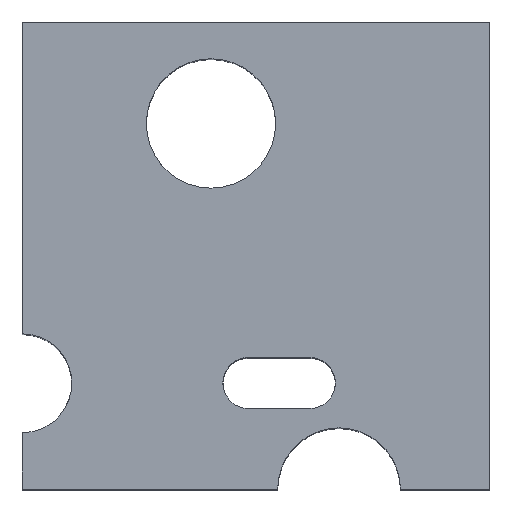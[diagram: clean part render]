
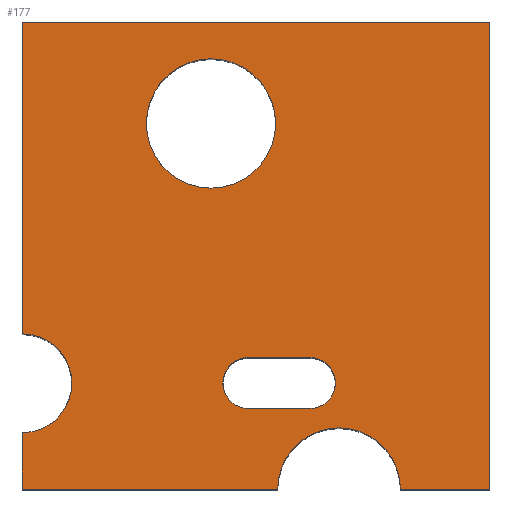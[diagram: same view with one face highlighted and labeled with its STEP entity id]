
A CAD part, top view. The second image highlights one B-rep face of the part: STEP entity #177.
In plain terms, the highlighted planar face has unit normal (0, 0, 1).
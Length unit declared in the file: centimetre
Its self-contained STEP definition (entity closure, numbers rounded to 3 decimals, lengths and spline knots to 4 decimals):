
#3 = VERTEX_POINT ( 'NONE', #1051 ) ;
#4 = CARTESIAN_POINT ( 'NONE',  ( 677.7718, 0., 1000. ) ) ;
#6 = VECTOR ( 'NONE', #338, 100. ) ;
#8 = VECTOR ( 'NONE', #213, 100. ) ;
#32 = CARTESIAN_POINT ( 'NONE',  ( 1000., 1000., 1000. ) ) ;
#36 = VERTEX_POINT ( 'NONE', #175 ) ;
#56 = AXIS2_PLACEMENT_3D ( 'NONE', #1141, #905, #346 ) ;
#63 = ORIENTED_EDGE ( 'NONE', *, *, #738, .T. ) ;
#74 = EDGE_CURVE ( 'NONE', #1196, #167, #997, .T. ) ;
#92 = CARTESIAN_POINT ( 'NONE',  ( 615.32, 227.261, 1000. ) ) ;
#131 = EDGE_CURVE ( 'NONE', #395, #36, #531, .T. ) ;
#135 = DIRECTION ( 'NONE',  ( 0., 0., -1. ) ) ;
#146 = VERTEX_POINT ( 'NONE', #546 ) ;
#154 = ORIENTED_EDGE ( 'NONE', *, *, #1376, .T. ) ;
#155 = VERTEX_POINT ( 'NONE', #860 ) ;
#162 = ORIENTED_EDGE ( 'NONE', *, *, #1199, .T. ) ;
#167 = VERTEX_POINT ( 'NONE', #959 ) ;
#175 = CARTESIAN_POINT ( 'NONE',  ( 0., 332.3804, 1000. ) ) ;
#177 = ADVANCED_FACE ( 'NONE', ( #412, #972, #734 ), #1397, .T. ) ;
#181 = EDGE_LOOP ( 'NONE', ( #1410, #63, #1274, #154, #371, #835, #530, #1321 ) ) ;
#190 = DIRECTION ( 'NONE',  ( 0., -1., 0. ) ) ;
#200 = CARTESIAN_POINT ( 'NONE',  ( 0., 1000., 1000. ) ) ;
#213 = DIRECTION ( 'NONE',  ( 0., -1., 0. ) ) ;
#235 = LINE ( 'NONE', #1251, #785 ) ;
#244 = DIRECTION ( 'NONE',  ( -1., 0., 0. ) ) ;
#247 = VERTEX_POINT ( 'NONE', #667 ) ;
#250 = CARTESIAN_POINT ( 'NONE',  ( 483.5872, 227.261, 1000. ) ) ;
#254 = CARTESIAN_POINT ( 'NONE',  ( 615.32, 281.7019, 1000. ) ) ;
#259 = VERTEX_POINT ( 'NONE', #1197 ) ;
#287 = DIRECTION ( 'NONE',  ( 0., 0., 1. ) ) ;
#291 = EDGE_CURVE ( 'NONE', #3, #146, #381, .T. ) ;
#310 = CIRCLE ( 'NONE', #499, 105.6302 ) ;
#313 = DIRECTION ( 'NONE',  ( 1., 0., 0. ) ) ;
#314 = CIRCLE ( 'NONE', #56, 138.4253 ) ;
#321 = DIRECTION ( 'NONE',  ( 1., 0., 0. ) ) ;
#335 = AXIS2_PLACEMENT_3D ( 'NONE', #974, #1292, #313 ) ;
#338 = DIRECTION ( 'NONE',  ( 1., 0., 0. ) ) ;
#346 = DIRECTION ( 'NONE',  ( -1., 0., 0. ) ) ;
#357 = CIRCLE ( 'NONE', #1159, 54.441 ) ;
#371 = ORIENTED_EDGE ( 'NONE', *, *, #131, .T. ) ;
#381 = CIRCLE ( 'NONE', #1183, 131.293 ) ;
#383 = DIRECTION ( 'NONE',  ( -1., 0., 0. ) ) ;
#395 = VERTEX_POINT ( 'NONE', #1231 ) ;
#412 = FACE_OUTER_BOUND ( 'NONE', #181, .T. ) ;
#420 = DIRECTION ( 'NONE',  ( 1., 0., 0. ) ) ;
#445 = CARTESIAN_POINT ( 'NONE',  ( 483.5872, 172.82, 1000. ) ) ;
#450 = CARTESIAN_POINT ( 'NONE',  ( 0., 121.1199, 1000. ) ) ;
#452 = CARTESIAN_POINT ( 'NONE',  ( 483.5872, 172.82, 1000. ) ) ;
#489 = EDGE_LOOP ( 'NONE', ( #494, #1174, #1381, #607, #965 ) ) ;
#491 = CARTESIAN_POINT ( 'NONE',  ( 483.5872, 281.7019, 1000. ) ) ;
#494 = ORIENTED_EDGE ( 'NONE', *, *, #982, .F. ) ;
#499 = AXIS2_PLACEMENT_3D ( 'NONE', #631, #1382, #729 ) ;
#530 = ORIENTED_EDGE ( 'NONE', *, *, #614, .T. ) ;
#531 = LINE ( 'NONE', #1084, #837 ) ;
#546 = CARTESIAN_POINT ( 'NONE',  ( 546.4788, 0., 1000. ) ) ;
#562 = VECTOR ( 'NONE', #383, 100. ) ;
#578 = CARTESIAN_POINT ( 'NONE',  ( 0., 0., 1000. ) ) ;
#580 = EDGE_CURVE ( 'NONE', #36, #833, #310, .T. ) ;
#607 = ORIENTED_EDGE ( 'NONE', *, *, #658, .F. ) ;
#614 = EDGE_CURVE ( 'NONE', #833, #1045, #872, .T. ) ;
#623 = EDGE_CURVE ( 'NONE', #1045, #146, #1167, .T. ) ;
#631 = CARTESIAN_POINT ( 'NONE',  ( 0., 226.7502, 1000. ) ) ;
#652 = AXIS2_PLACEMENT_3D ( 'NONE', #92, #287, #1301 ) ;
#655 = CIRCLE ( 'NONE', #335, 54.441 ) ;
#658 = EDGE_CURVE ( 'NONE', #247, #1196, #655, .T. ) ;
#667 = CARTESIAN_POINT ( 'NONE',  ( 615.32, 172.82, 1000. ) ) ;
#729 = DIRECTION ( 'NONE',  ( -1., 0., 0. ) ) ;
#734 = FACE_BOUND ( 'NONE', #489, .T. ) ;
#738 = EDGE_CURVE ( 'NONE', #3, #259, #878, .T. ) ;
#765 = AXIS2_PLACEMENT_3D ( 'NONE', #1224, #135, #244 ) ;
#766 = CARTESIAN_POINT ( 'NONE',  ( 542.0519, 782.8327, 1000. ) ) ;
#775 = DIRECTION ( 'NONE',  ( 0., 0., 1. ) ) ;
#785 = VECTOR ( 'NONE', #1132, 100. ) ;
#791 = VERTEX_POINT ( 'NONE', #445 ) ;
#833 = VERTEX_POINT ( 'NONE', #450 ) ;
#835 = ORIENTED_EDGE ( 'NONE', *, *, #580, .T. ) ;
#837 = VECTOR ( 'NONE', #190, 100. ) ;
#860 = CARTESIAN_POINT ( 'NONE',  ( 265.2014, 782.8327, 1000. ) ) ;
#862 = CARTESIAN_POINT ( 'NONE',  ( 0., 0., 1000. ) ) ;
#872 = LINE ( 'NONE', #200, #8 ) ;
#878 = LINE ( 'NONE', #1213, #1368 ) ;
#898 = LINE ( 'NONE', #452, #6 ) ;
#899 = CARTESIAN_POINT ( 'NONE',  ( 669.761, 227.261, 1000. ) ) ;
#905 = DIRECTION ( 'NONE',  ( 0., 0., -1. ) ) ;
#907 = DIRECTION ( 'NONE',  ( 0., 0., 1. ) ) ;
#911 = DIRECTION ( 'NONE',  ( 0., 1., 0. ) ) ;
#925 = LINE ( 'NONE', #32, #926 ) ;
#926 = VECTOR ( 'NONE', #911, 100. ) ;
#953 = VECTOR ( 'NONE', #321, 100. ) ;
#959 = CARTESIAN_POINT ( 'NONE',  ( 615.32, 281.7019, 1000. ) ) ;
#965 = ORIENTED_EDGE ( 'NONE', *, *, #1329, .F. ) ;
#972 = FACE_BOUND ( 'NONE', #1268, .T. ) ;
#974 = CARTESIAN_POINT ( 'NONE',  ( 615.32, 227.261, 1000. ) ) ;
#982 = EDGE_CURVE ( 'NONE', #1235, #791, #357, .T. ) ;
#997 = CIRCLE ( 'NONE', #652, 54.441 ) ;
#1045 = VERTEX_POINT ( 'NONE', #578 ) ;
#1051 = CARTESIAN_POINT ( 'NONE',  ( 809.0648, 0., 1000. ) ) ;
#1084 = CARTESIAN_POINT ( 'NONE',  ( 0., 1000., 1000. ) ) ;
#1120 = DIRECTION ( 'NONE',  ( 1., 0., 0. ) ) ;
#1132 = DIRECTION ( 'NONE',  ( -1., 0., 0. ) ) ;
#1135 = DIRECTION ( 'NONE',  ( 1., 0., 0. ) ) ;
#1141 = CARTESIAN_POINT ( 'NONE',  ( 403.6266, 782.8327, 1000. ) ) ;
#1159 = AXIS2_PLACEMENT_3D ( 'NONE', #250, #907, #1135 ) ;
#1167 = LINE ( 'NONE', #862, #953 ) ;
#1174 = ORIENTED_EDGE ( 'NONE', *, *, #1422, .F. ) ;
#1183 = AXIS2_PLACEMENT_3D ( 'NONE', #4, #775, #1120 ) ;
#1196 = VERTEX_POINT ( 'NONE', #899 ) ;
#1197 = CARTESIAN_POINT ( 'NONE',  ( 1000., 0., 1000. ) ) ;
#1199 = EDGE_CURVE ( 'NONE', #1312, #155, #314, .T. ) ;
#1213 = CARTESIAN_POINT ( 'NONE',  ( 0., 0., 1000. ) ) ;
#1224 = CARTESIAN_POINT ( 'NONE',  ( 403.6266, 782.8327, 1000. ) ) ;
#1227 = DIRECTION ( 'NONE',  ( 1., 0., 0. ) ) ;
#1231 = CARTESIAN_POINT ( 'NONE',  ( 0., 1000., 1000. ) ) ;
#1235 = VERTEX_POINT ( 'NONE', #491 ) ;
#1250 = EDGE_CURVE ( 'NONE', #155, #1312, #1413, .T. ) ;
#1251 = CARTESIAN_POINT ( 'NONE',  ( 0., 1000., 1000. ) ) ;
#1265 = EDGE_CURVE ( 'NONE', #259, #1418, #925, .T. ) ;
#1268 = EDGE_LOOP ( 'NONE', ( #1357, #162 ) ) ;
#1274 = ORIENTED_EDGE ( 'NONE', *, *, #1265, .T. ) ;
#1289 = CARTESIAN_POINT ( 'NONE',  ( 0., 0., 1000. ) ) ;
#1292 = DIRECTION ( 'NONE',  ( 0., 0., 1. ) ) ;
#1293 = AXIS2_PLACEMENT_3D ( 'NONE', #1289, #1411, #420 ) ;
#1301 = DIRECTION ( 'NONE',  ( 1., 0., 0. ) ) ;
#1312 = VERTEX_POINT ( 'NONE', #766 ) ;
#1321 = ORIENTED_EDGE ( 'NONE', *, *, #623, .T. ) ;
#1329 = EDGE_CURVE ( 'NONE', #791, #247, #898, .T. ) ;
#1352 = CARTESIAN_POINT ( 'NONE',  ( 1000., 1000., 1000. ) ) ;
#1357 = ORIENTED_EDGE ( 'NONE', *, *, #1250, .T. ) ;
#1362 = LINE ( 'NONE', #254, #562 ) ;
#1368 = VECTOR ( 'NONE', #1227, 100. ) ;
#1376 = EDGE_CURVE ( 'NONE', #1418, #395, #235, .T. ) ;
#1381 = ORIENTED_EDGE ( 'NONE', *, *, #74, .F. ) ;
#1382 = DIRECTION ( 'NONE',  ( 0., 0., -1. ) ) ;
#1397 = PLANE ( 'NONE',  #1293 ) ;
#1410 = ORIENTED_EDGE ( 'NONE', *, *, #291, .F. ) ;
#1411 = DIRECTION ( 'NONE',  ( 0., 0., 1. ) ) ;
#1413 = CIRCLE ( 'NONE', #765, 138.4253 ) ;
#1418 = VERTEX_POINT ( 'NONE', #1352 ) ;
#1422 = EDGE_CURVE ( 'NONE', #167, #1235, #1362, .T. ) ;
